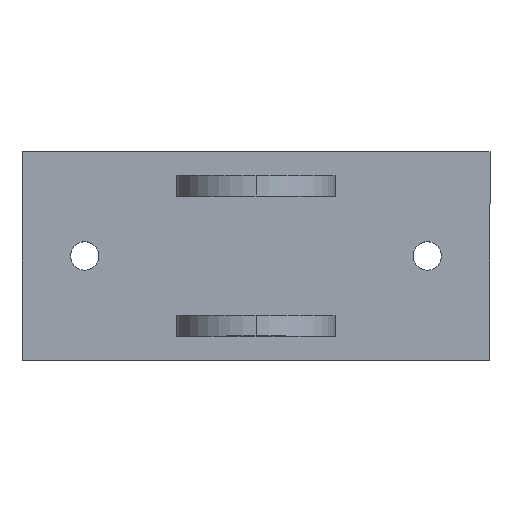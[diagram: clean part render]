
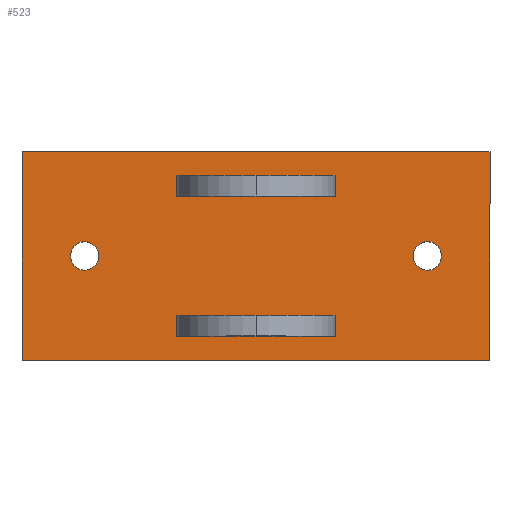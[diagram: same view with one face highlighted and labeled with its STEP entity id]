
A CAD part, top view. The second image highlights one B-rep face of the part: STEP entity #523.
In plain terms, the highlighted planar face has unit normal (0, 0, 1).
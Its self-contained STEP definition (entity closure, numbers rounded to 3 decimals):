
#12 = AXIS2_PLACEMENT_3D ( 'NONE', #102, #26, #1136 ) ;
#24 = EDGE_CURVE ( 'NONE', #498, #295, #256, .T. ) ;
#26 = DIRECTION ( 'NONE',  ( 0., 0., 1. ) ) ;
#60 = CIRCLE ( 'NONE', #200, 3.4 ) ;
#62 = CARTESIAN_POINT ( 'NONE',  ( -41., 3.4, 0. ) ) ;
#65 = DIRECTION ( 'NONE',  ( 0., 1., 0. ) ) ;
#79 = AXIS2_PLACEMENT_3D ( 'NONE', #988, #1188, #586 ) ;
#102 = CARTESIAN_POINT ( 'NONE',  ( -41., 0., 0. ) ) ;
#113 = AXIS2_PLACEMENT_3D ( 'NONE', #296, #504, #892 ) ;
#142 = FACE_OUTER_BOUND ( 'NONE', #921, .T. ) ;
#146 = ORIENTED_EDGE ( 'NONE', *, *, #623, .F. ) ;
#172 = CARTESIAN_POINT ( 'NONE',  ( -56., -25., 0. ) ) ;
#200 = AXIS2_PLACEMENT_3D ( 'NONE', #1148, #439, #544 ) ;
#224 = ORIENTED_EDGE ( 'NONE', *, *, #779, .F. ) ;
#233 = DIRECTION ( 'NONE',  ( 0., -1., 0. ) ) ;
#242 = LINE ( 'NONE', #1143, #1010 ) ;
#256 = CIRCLE ( 'NONE', #113, 3.4 ) ;
#262 = CARTESIAN_POINT ( 'NONE',  ( 56., -25., 0. ) ) ;
#267 = CARTESIAN_POINT ( 'NONE',  ( 0., 0., 0. ) ) ;
#295 = VERTEX_POINT ( 'NONE', #1011 ) ;
#296 = CARTESIAN_POINT ( 'NONE',  ( 41., 0., 0. ) ) ;
#340 = ORIENTED_EDGE ( 'NONE', *, *, #610, .F. ) ;
#361 = EDGE_CURVE ( 'NONE', #763, #856, #242, .T. ) ;
#409 = LINE ( 'NONE', #928, #549 ) ;
#439 = DIRECTION ( 'NONE',  ( 0., 0., 1. ) ) ;
#478 = EDGE_LOOP ( 'NONE', ( #340, #1170 ) ) ;
#498 = VERTEX_POINT ( 'NONE', #659 ) ;
#504 = DIRECTION ( 'NONE',  ( 0., 0., 1. ) ) ;
#518 = VECTOR ( 'NONE', #65, 1000. ) ;
#523 = ADVANCED_FACE ( 'NONE', ( #880, #142, #612 ), #550, .F. ) ;
#538 = ORIENTED_EDGE ( 'NONE', *, *, #361, .F. ) ;
#544 = DIRECTION ( 'NONE',  ( 0., -1., 0. ) ) ;
#549 = VECTOR ( 'NONE', #233, 1000. ) ;
#550 = PLANE ( 'NONE',  #1083 ) ;
#586 = DIRECTION ( 'NONE',  ( 0., -1., 0. ) ) ;
#588 = CARTESIAN_POINT ( 'NONE',  ( -41., -3.4, 0. ) ) ;
#610 = EDGE_CURVE ( 'NONE', #1294, #1144, #819, .T. ) ;
#612 = FACE_BOUND ( 'NONE', #672, .T. ) ;
#623 = EDGE_CURVE ( 'NONE', #1204, #763, #787, .T. ) ;
#629 = DIRECTION ( 'NONE',  ( 1., 0., 0. ) ) ;
#659 = CARTESIAN_POINT ( 'NONE',  ( 41., 3.4, 0. ) ) ;
#672 = EDGE_LOOP ( 'NONE', ( #1046, #700 ) ) ;
#700 = ORIENTED_EDGE ( 'NONE', *, *, #24, .F. ) ;
#754 = EDGE_CURVE ( 'NONE', #1144, #1294, #1242, .T. ) ;
#763 = VERTEX_POINT ( 'NONE', #897 ) ;
#774 = CARTESIAN_POINT ( 'NONE',  ( -56., -25., 0. ) ) ;
#779 = EDGE_CURVE ( 'NONE', #856, #1002, #409, .T. ) ;
#787 = LINE ( 'NONE', #774, #518 ) ;
#788 = ORIENTED_EDGE ( 'NONE', *, *, #1079, .F. ) ;
#819 = CIRCLE ( 'NONE', #79, 3.4 ) ;
#851 = DIRECTION ( 'NONE',  ( 0., 0., -1. ) ) ;
#856 = VERTEX_POINT ( 'NONE', #918 ) ;
#864 = EDGE_CURVE ( 'NONE', #295, #498, #60, .T. ) ;
#880 = FACE_BOUND ( 'NONE', #478, .T. ) ;
#892 = DIRECTION ( 'NONE',  ( 0., -1., 0. ) ) ;
#897 = CARTESIAN_POINT ( 'NONE',  ( -56., 25., 0. ) ) ;
#918 = CARTESIAN_POINT ( 'NONE',  ( 56., 25., 0. ) ) ;
#921 = EDGE_LOOP ( 'NONE', ( #538, #146, #788, #224 ) ) ;
#928 = CARTESIAN_POINT ( 'NONE',  ( 56., 25., 0. ) ) ;
#939 = CARTESIAN_POINT ( 'NONE',  ( 56., -25., 0. ) ) ;
#988 = CARTESIAN_POINT ( 'NONE',  ( -41., 0., 0. ) ) ;
#1002 = VERTEX_POINT ( 'NONE', #939 ) ;
#1010 = VECTOR ( 'NONE', #629, 1000. ) ;
#1011 = CARTESIAN_POINT ( 'NONE',  ( 41., -3.4, 0. ) ) ;
#1043 = LINE ( 'NONE', #262, #1271 ) ;
#1046 = ORIENTED_EDGE ( 'NONE', *, *, #864, .F. ) ;
#1079 = EDGE_CURVE ( 'NONE', #1002, #1204, #1043, .T. ) ;
#1083 = AXIS2_PLACEMENT_3D ( 'NONE', #267, #851, #1171 ) ;
#1136 = DIRECTION ( 'NONE',  ( 0., -1., 0. ) ) ;
#1143 = CARTESIAN_POINT ( 'NONE',  ( -56., 25., 0. ) ) ;
#1144 = VERTEX_POINT ( 'NONE', #62 ) ;
#1148 = CARTESIAN_POINT ( 'NONE',  ( 41., 0., 0. ) ) ;
#1161 = DIRECTION ( 'NONE',  ( -1., 0., 0. ) ) ;
#1170 = ORIENTED_EDGE ( 'NONE', *, *, #754, .F. ) ;
#1171 = DIRECTION ( 'NONE',  ( -1., 0., 0. ) ) ;
#1188 = DIRECTION ( 'NONE',  ( 0., 0., 1. ) ) ;
#1204 = VERTEX_POINT ( 'NONE', #172 ) ;
#1242 = CIRCLE ( 'NONE', #12, 3.4 ) ;
#1271 = VECTOR ( 'NONE', #1161, 1000. ) ;
#1294 = VERTEX_POINT ( 'NONE', #588 ) ;
